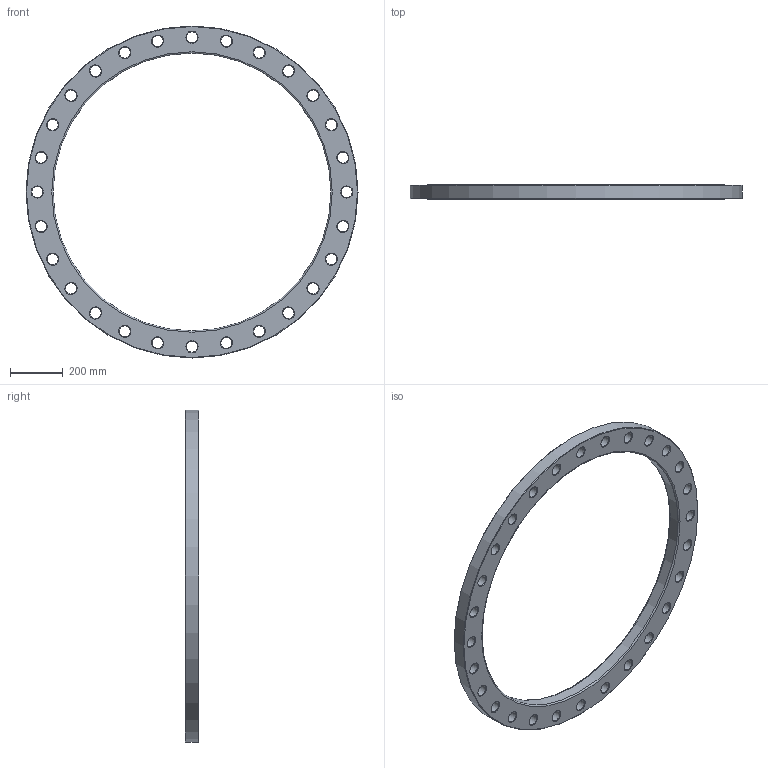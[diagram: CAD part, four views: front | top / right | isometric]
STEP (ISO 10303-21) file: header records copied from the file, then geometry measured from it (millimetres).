
FILE_DESCRIPTION(/* description */ ('Unknown'),/* implementation_level */ '2;1');
FILE_NAME(/* name */ 'FZ1000C',/* time_stamp */ '2021-03-15T12:35:15+01:00',/* author */ ('Unknown'),/* organization */ ('Unknown'),/* preprocessor_version */ 'ST-DEVELOPER v16.7',/* originating_system */ 'Solid Edge',/* authorisation */ 'Unknown');
FILE_SCHEMA (('AUTOMOTIVE_DESIGN {1 0 10303 214 3 1 1}'));
Length unit declared in the file: millimetre
Products named in the file (1): FZ1000C
Bounding box: 1255 x 52 x 1255 mm (x, y, z)
Volume: 17214578.2 mm3; surface area: 1201571.9 mm2
Topology: 1 solids, 1 shells, 92 faces, 294 edges, 204 vertices
Faces by surface type: cone 58, cylinder 30, plane 2, torus 2
Full cylindrical faces by diameter (mm): 42 x28, 1050 x1, 1255 x1
Entity records: 2270 total; most frequent: DIRECTION 426, CARTESIAN_POINT 333, ORIENTED_EDGE 240, EDGE_LOOP 240, FACE_BOUND 240, AXIS2_PLACEMENT_3D 213, EDGE_CURVE 120, VERTEX_POINT 120
